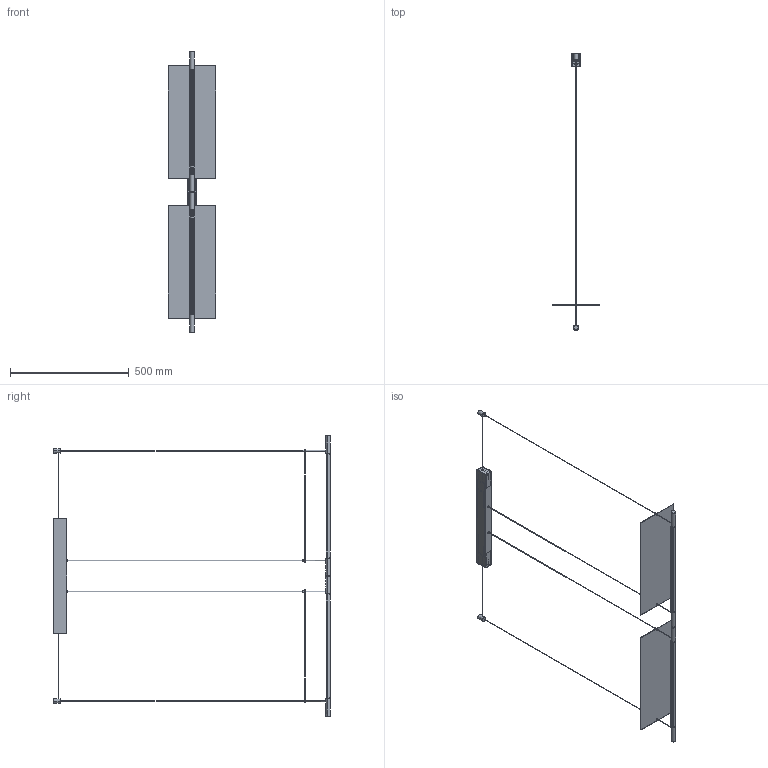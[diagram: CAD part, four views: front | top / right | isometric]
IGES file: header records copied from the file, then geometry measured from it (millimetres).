
Start section: SolidWorks IGES file using analytic representation for surfaces
Global section: file name: C:\SANTACOLE_PDM\Proyectos Catálogo\PROD-P17-012 -- LAMINA\6_Técnico comercial\LAMINA DORADA WEB\3D\Lamina Dorada 45 Sistema suspension.IGS; native system: SolidWorks 2021; preprocessor: SolidWorks 2021; author: clara.galimany; date: 230420.152113; units: millimetre
Bounding box: 198.4 x 1163.2 x 1179 mm (x, y, z)
Surface area: 848977.2 mm2 (no closed solid volume)
Topology: 0 solids, 0 shells, 825 faces, 10625 edges, 10625 vertices
Faces by surface type: bspline 465, revolution 360
